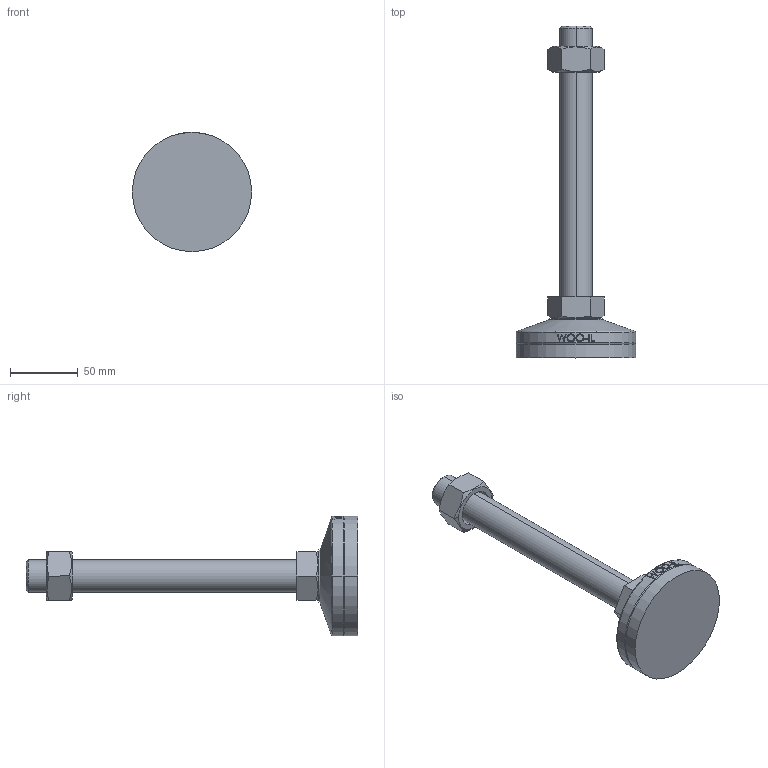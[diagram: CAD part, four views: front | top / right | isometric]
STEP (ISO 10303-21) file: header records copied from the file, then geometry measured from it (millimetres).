
FILE_DESCRIPTION (( 'STEP AP214' ), '1' );
FILE_NAME ('MFTR88-M24-200.step', '2021-02-08T08:39:28', ( '' ), ( '' ), 'SwSTEP 2.0', 'SolidWorks 2019', '' );
FILE_SCHEMA (( 'AUTOMOTIVE_DESIGN' ));
Length unit declared in the file: millimetre
Products named in the file (2): MFTR88-M24-200
Bounding box: 88 x 245 x 88 mm (x, y, z)
Volume: 268907.2 mm3; surface area: 53983.2 mm2
Topology: 4 solids, 4 shells, 103 faces, 235 edges, 150 vertices
Faces by surface type: plane 49, cylinder 18, bspline 16, cone 14, torus 6
Entity records: 4433 total; most frequent: CARTESIAN_POINT 2160, ORIENTED_EDGE 470, DIRECTION 417, EDGE_CURVE 235, AXIS2_PLACEMENT_3D 159, VERTEX_POINT 150, EDGE_LOOP 115, FACE_OUTER_BOUND 103
